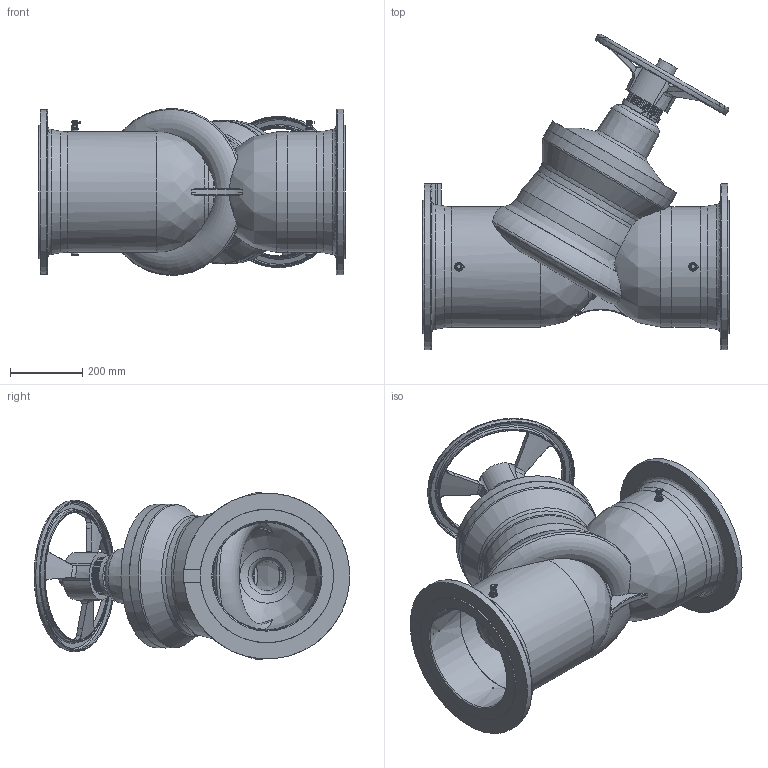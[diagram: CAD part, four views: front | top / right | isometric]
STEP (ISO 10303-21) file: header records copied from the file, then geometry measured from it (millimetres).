
FILE_DESCRIPTION((''),'2;1');
FILE_NAME('P:\Fastrack\53972_CRANE 3D\DM921-941\WORKSPACE\DM921-941\DM931_DN300\DM931_DN300.stp','2011-03-01T15:49:25',('btaylor'),(''),'Autodesk Inventor 2008','Autodesk Inventor 2008','');
FILE_SCHEMA(('AUTOMOTIVE_DESIGN { 1 0 10303 214 1 1 1 1 }'));
Length unit declared in the file: millimetre
Products named in the file (1): DM931_DN300
Bounding box: 850 x 875.54 x 462.62 mm (x, y, z)
Volume: 71567836.7 mm3; surface area: 3382829.4 mm2
Topology: 3 solids, 5 shells, 893 faces, 2285 edges, 1494 vertices
Faces by surface type: plane 328, bspline 273, cylinder 177, cone 77, torus 38
Full cylindrical faces by diameter (mm): 7.4 x2, 8 x2, 11 x2, 12 x12, 12.7 x2, 13.7 x2, 20 x4, 32 x1, 32.7 x1, 45.7 x1, 46.2 x1, 46.8 x1, 50 x1, 63 x1, 84 x1, 98 x1, 114 x1, 122 x1, 295 x1, 300 x1, 325.5 x1, 334 x2, 366.489 x1, 370 x2
Entity records: 79371 total; most frequent: CARTESIAN_POINT 59516, ORIENTED_EDGE 4192, DIRECTION 3076, EDGE_CURVE 2096, VERTEX_POINT 1434, EDGE_LOOP 1141, AXIS2_PLACEMENT_3D 1132, STYLED_ITEM 893
